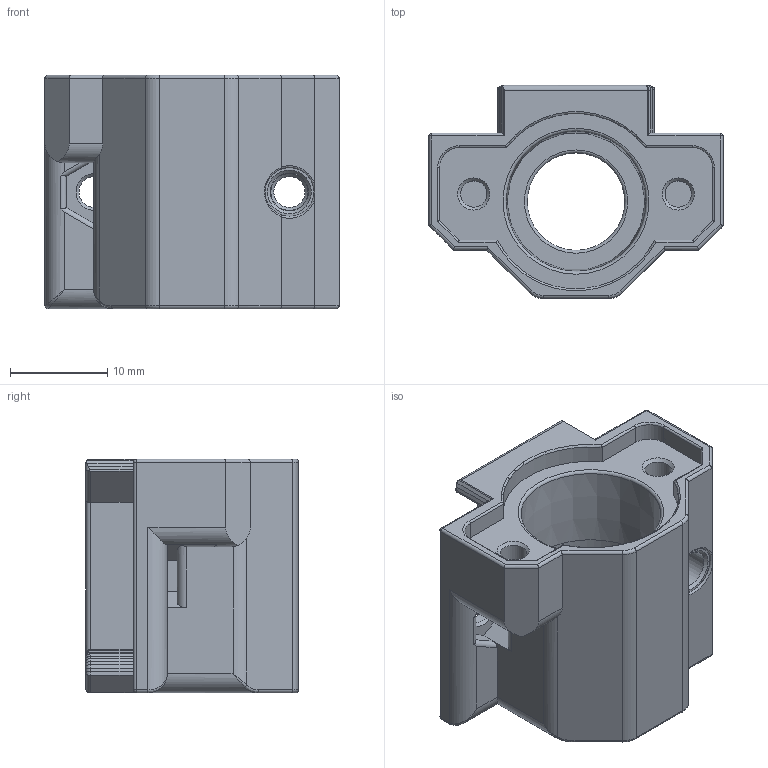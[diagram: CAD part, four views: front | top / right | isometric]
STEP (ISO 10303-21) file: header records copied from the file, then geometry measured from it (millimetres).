
FILE_DESCRIPTION(/* description */ ('FreeCAD Model'),/* implementation_level */ '2;1');
FILE_NAME(/* name */ '\\7800MBZ-PC\Maschinenbau-Projekte\Prusa_Mini_CAD\Linearlager\Linearlager_Sinterbuchsen-8_14_20-Mini-Y-Achse\Export_Step\PrusaMods_Y-Axis_Bearing_Holder_RJ4JP_+0.10_Loslager_mit_Ausnehmung.stp',/* time_stamp */ '2023-04-06T13:01:34+02:00',/* author */ ('KHG'),/* organization */ (''),/* preprocessor_version */ 'ST-DEVELOPER v18.1',/* originating_system */ 'Autodesk Inventor 2020',/* authorisation */ 'Unknown');
FILE_SCHEMA (('AUTOMOTIVE_DESIGN { 1 0 10303 214 3 1 1 }'));
Length unit declared in the file: millimetre
Products named in the file (1): PrusaMods_Y-Axis_Bearing_Holder_RJ4JP_+0.10_Loslager
Bounding box: 30.2 x 21.86 x 24 mm (x, y, z)
Volume: 6442.4 mm3; surface area: 4589.4 mm2
Topology: 1 solids, 1 shells, 324 faces, 829 edges, 522 vertices
Faces by surface type: plane 156, cylinder 93, bspline 50, torus 12, cone 9, sphere 4
Full cylindrical faces by diameter (mm): 2.7 x2, 3.2 x2, 3.9 x1, 5 x1, 10 x1
Entity records: 10385 total; most frequent: CARTESIAN_POINT 2737, ORIENTED_EDGE 1654, DIRECTION 1441, EDGE_CURVE 827, LINE 539, VECTOR 539, VERTEX_POINT 522, AXIS2_PLACEMENT_3D 451
